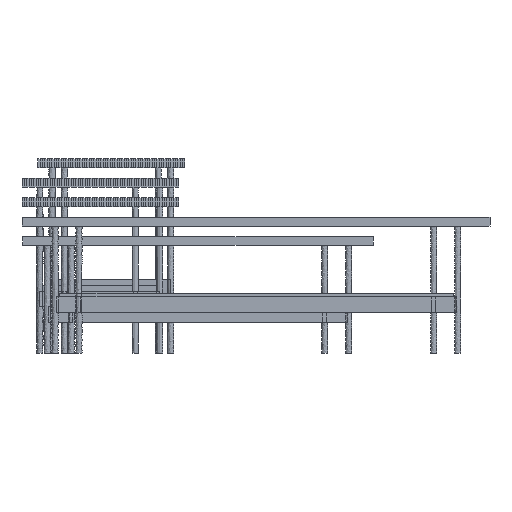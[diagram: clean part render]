
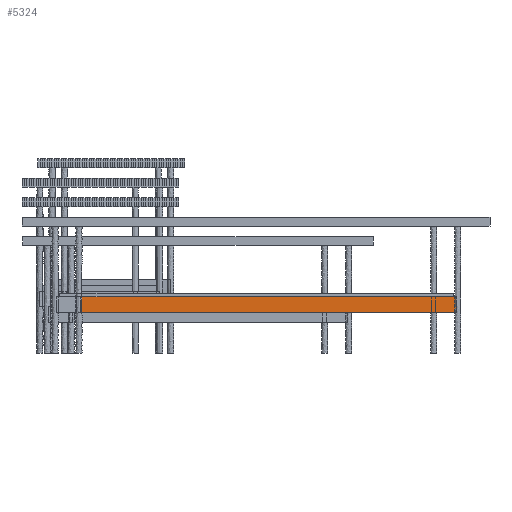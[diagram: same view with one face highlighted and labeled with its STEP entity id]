
A CAD part, left-side view. The second image highlights one B-rep face of the part: STEP entity #5324.
In plain terms, the highlighted planar face has unit normal (-1, 0, 0).
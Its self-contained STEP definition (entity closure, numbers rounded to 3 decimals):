
#5324=ADVANCED_FACE('',(#9236),#53141,.T.);
#9236=FACE_OUTER_BOUND('',#13148,.T.);
#13148=EDGE_LOOP('',(#28571,#28572,#28573,#28574));
#28571=ORIENTED_EDGE('',*,*,#36381,.T.);
#28572=ORIENTED_EDGE('',*,*,#36374,.T.);
#28573=ORIENTED_EDGE('',*,*,#36382,.F.);
#28574=ORIENTED_EDGE('',*,*,#36379,.F.);
#36374=EDGE_CURVE('',#49240,#49243,#44055,.T.);
#36379=EDGE_CURVE('',#49246,#49247,#44060,.T.);
#36381=EDGE_CURVE('',#49246,#49240,#44062,.T.);
#36382=EDGE_CURVE('',#49247,#49243,#44063,.T.);
#44055=B_SPLINE_CURVE_WITH_KNOTS('',1,(#86202,#86203),.UNSPECIFIED.,.F.,
 .F.,(2,2),(0.,40.),.UNSPECIFIED.);
#44060=B_SPLINE_CURVE_WITH_KNOTS('',1,(#86212,#86213),.UNSPECIFIED.,.F.,
 .F.,(2,2),(0.,40.),.UNSPECIFIED.);
#44062=B_SPLINE_CURVE_WITH_KNOTS('',1,(#86216,#86217),.UNSPECIFIED.,.F.,
 .F.,(2,2),(725.,1430.),.UNSPECIFIED.);
#44063=B_SPLINE_CURVE_WITH_KNOTS('',1,(#86218,#86219),.UNSPECIFIED.,.F.,
 .F.,(2,2),(725.,1430.),.UNSPECIFIED.);
#49240=VERTEX_POINT('',#86188);
#49243=VERTEX_POINT('',#86191);
#49246=VERTEX_POINT('',#86194);
#49247=VERTEX_POINT('',#86195);
#53141=PLANE('',#57117);
#57117=AXIS2_PLACEMENT_3D('',#86185,#61009,$);
#61009=DIRECTION('',(-1.,0.,0.));
#86185=CARTESIAN_POINT('',(-284992.397,452.39,105.));
#86188=CARTESIAN_POINT('',(-284992.397,-512.324,105.));
#86191=CARTESIAN_POINT('',(-284992.397,-512.324,145.));
#86194=CARTESIAN_POINT('',(-284992.397,452.39,105.));
#86195=CARTESIAN_POINT('',(-284992.397,452.39,145.));
#86202=CARTESIAN_POINT('',(-284992.397,-512.324,105.));
#86203=CARTESIAN_POINT('',(-284992.397,-512.324,145.));
#86212=CARTESIAN_POINT('',(-284992.397,452.39,105.));
#86213=CARTESIAN_POINT('',(-284992.397,452.39,145.));
#86216=CARTESIAN_POINT('',(-284992.397,452.39,105.));
#86217=CARTESIAN_POINT('',(-284992.397,-512.324,105.));
#86218=CARTESIAN_POINT('',(-284992.397,452.39,145.));
#86219=CARTESIAN_POINT('',(-284992.397,-512.324,145.));
